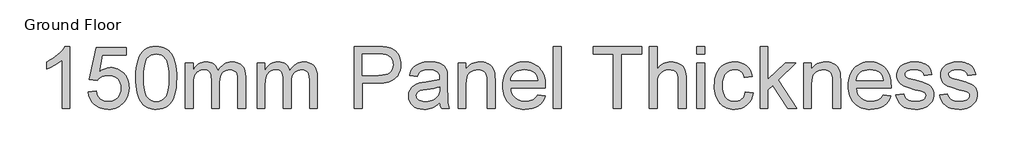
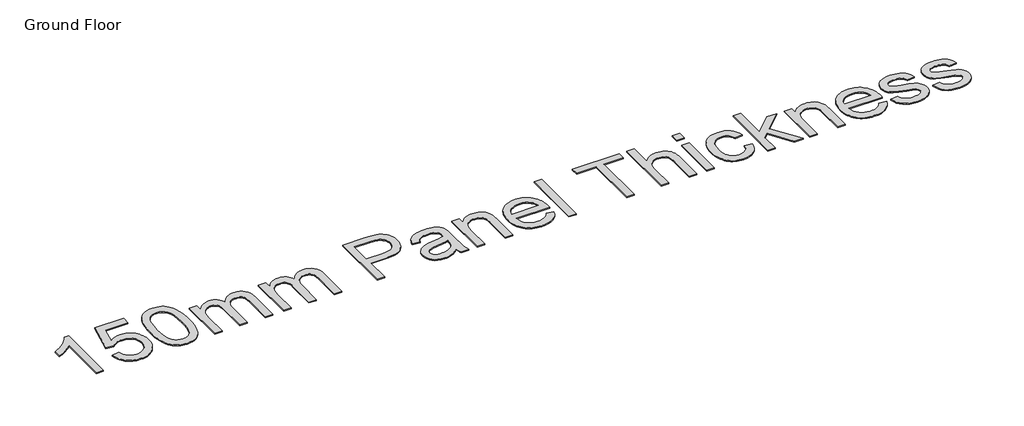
# One storey, part 10 of 11: 1 proxy.
"""IFC4 building model written with IfcOpenShell, lengths in millimetres."""

from ifc_helpers import new_model, si_unit, origin, origin_with_axes, place, context, project, spatial, polyline, outline, extrude, element, save

model = new_model("IFC4")

# Units and contexts
model_context = context("Model", 3, world=origin())
ifc_project = project(units=[si_unit("LENGTHUNIT", "METRE", prefix="MILLI")], contexts=[model_context])

# Site, building, storey
site = spatial("IfcSite", under=ifc_project)
building = spatial("IfcBuilding", under=site)
storey = spatial("IfcBuildingStorey", under=building, Name="Ground Floor", Elevation=0.0)

# Proxy
placement = place(None, origin())
element("IfcBuildingElementProxy", 1, Name="1200mm Arial", ObjectType="1200mm Arial", at=placement, inside=storey, context=model_context, shape_type="SweptSolid", body=[
    extrude(outline(polyline([(102494.0853893, 20341.9259002), (102347.1762984, 20341.9259002), (102347.1762984, 21257.8122638), (102285.8446223, 21208.2089258), (102208.0143666, 21158.6773206), (102126.3105314, 21115.3864826), (102053.3581166, 21084.5054456), (102053.3581166, 21223.3804456), (102112.9771684, 21253.2751544), (102168.740574, 21286.1467809), (102220.6483332, 21321.9953249), (102268.7004461, 21360.8207865), (102311.4622537, 21400.8298419), (102347.4990967, 21440.2291672), (102376.8109752, 21479.0187624), (102399.3978893, 21517.1986275), (102494.0853893, 21517.1986275), (102494.0853893, 20341.9259002)])), origin_with_axes(), (0.0, 0.0, 1.0), 20.0),
    extrude(outline(polyline([(102842.9944802, 20654.1077184), (102989.9035711, 20672.4713547), (103000.8787132, 20625.2441708), (103016.875162, 20584.2756871), (103037.8929177, 20549.5659037), (103063.9319802, 20521.1148206), (103094.9385498, 20498.9583043), (103130.8588268, 20483.1322212), (103171.6928112, 20473.6365714), (103217.4405029, 20470.4713547), (103273.3922075, 20474.8739648), (103322.7444802, 20488.0817951), (103365.4973211, 20510.0948455), (103401.6507302, 20540.9131161), (103430.3977118, 20579.0122816), (103450.93127, 20622.8680167), (103463.2514049, 20672.4803214), (103467.3581166, 20727.8491956), (103463.5114369, 20780.178386), (103451.9713978, 20826.697207), (103432.7379994, 20867.4056587), (103405.8112416, 20902.3037411), (103371.1014582, 20930.2975266), (103328.5189831, 20950.2930877), (103278.0638162, 20962.2904243), (103219.7359575, 20966.2895365), (103182.4079213, 20964.6934783), (103148.4692672, 20959.9053036), (103117.9199951, 20951.9250124), (103090.7601052, 20940.7526047), (103044.6716819, 20911.4138263), (103008.2672075, 20874.4713547), (102861.3581166, 20892.8349911), (102989.9035711, 21498.8349911), (103559.1762984, 21498.8349911), (103559.1762984, 21351.9259002), (103108.6933439, 21351.9259002), (103045.8552757, 21028.2668093), (103097.7002686, 21065.4244797), (103150.8005882, 21091.9656729), (103205.1562345, 21107.8903888), (103260.7672075, 21113.1986275), (103297.2680731, 21111.5532528), (103332.311863, 21106.6171289), (103365.8985773, 21098.3902557), (103398.028216, 21086.8726331), (103428.700779, 21072.0642613), (103457.9162664, 21053.9651402), (103485.6746782, 21032.5752699), (103511.9760143, 21007.8946502), (103535.9505127, 20980.6271608), (103556.7284113, 20951.4766814), (103574.3097102, 20920.443212), (103588.6944092, 20887.5267525), (103599.8825085, 20852.7273029), (103607.8740079, 20816.0448633), (103612.6689076, 20777.4794336), (103614.2672075, 20737.0310138), (103608.5106379, 20660.922349), (103591.2409291, 20590.1219229), (103562.4580811, 20524.6297354), (103522.1620939, 20464.4457865), (103492.9129816, 20431.4262109), (103461.1173495, 20402.8092454), (103426.7751976, 20378.5948899), (103389.8865257, 20358.7831445), (103350.4513339, 20343.3740092), (103308.4696223, 20332.367484), (103263.9413907, 20325.7635689), (103216.8666393, 20323.5622638), (103141.053873, 20329.2202006), (103105.8980003, 20336.2926216), (103072.5758012, 20346.194011), (103041.0872759, 20358.9243688), (103011.4324241, 20374.4836949), (102983.611246, 20392.8719895), (102957.6237416, 20414.0892525), (102933.8958252, 20437.6423198), (102912.8534113, 20463.0380273), (102894.4964999, 20490.2763752), (102878.825091, 20519.3573633), (102855.5387806, 20583.0472603), (102842.9944802, 20654.1077184)])), origin_with_axes(), (0.0, 0.0, 1.0), 20.0),
    extrude(outline(polyline([(103742.812662, 20920.0935138), (103745.5116145, 21018.9146253), (103753.6084717, 21108.2131871), (103767.1032338, 21187.9891992), (103785.9959007, 21258.2426615), (103810.2057728, 21319.5474378), (103839.6521507, 21372.4773917), (103874.3350342, 21417.0325231), (103914.2544234, 21453.212832), (103959.5448176, 21481.2066175), (104010.340716, 21501.2021786), (104066.6421187, 21513.1995152), (104128.4490257, 21517.1986275), (104174.8961137, 21514.83144), (104218.9760143, 21507.7298775), (104260.6887274, 21495.89394), (104300.0342529, 21479.3236275), (104336.0621294, 21458.2969052), (104367.821895, 21433.0917383), (104395.3135498, 21403.7081267), (104418.5370939, 21370.1460706), (104438.6581876, 21332.5400692), (104456.8424916, 21291.0246218), (104487.4007302, 21196.2653888), (104499.0752686, 21140.5378498), (104507.4142245, 21075.9333576), (104512.4175981, 21002.4519123), (104514.0853893, 20920.0935138), (104511.4133368, 20821.9000657), (104503.3971791, 20733.0498348), (104490.0369163, 20653.5428214), (104471.3325484, 20583.3790252), (104447.3109752, 20522.047349), (104417.9990967, 20469.0366956), (104383.3969127, 20424.347065), (104343.5044234, 20387.978457), (104298.1602295, 20359.7963725), (104247.2029319, 20339.6663121), (104190.6325306, 20327.5882759), (104128.4490257, 20323.5622638), (104086.843912, 20325.3107546), (104047.5342529, 20330.5562269), (104010.5200484, 20339.2986807), (103975.8012984, 20351.5381161), (103943.3780029, 20367.274533), (103913.250162, 20386.5079314), (103885.4177757, 20409.2383114), (103859.8808439, 20435.4656729), (103832.4429887, 20476.9945703), (103808.6635143, 20523.9662056), (103788.5424206, 20576.3805788), (103772.0797075, 20634.23769), (103759.2753751, 20697.537539), (103750.1294234, 20766.280126), (103744.6418524, 20840.465451), (103742.812662, 20920.0935138)]), holes=[polyline([(103889.7217529, 20920.3804456), (103894.0257302, 20792.6688867), (103906.937662, 20689.2927326), (103916.6216109, 20646.7304323), (103928.4575484, 20610.2519833), (103942.4454745, 20579.8573854), (103958.5853893, 20555.5466388), (103995.0257302, 20518.326202), (104035.4831166, 20491.7401758), (104079.9575484, 20475.78856), (104128.4490257, 20470.4713547), (104176.9405029, 20475.8064932), (104221.4149348, 20491.8119087), (104261.8723211, 20518.4876012), (104298.312662, 20555.8335706), (104314.4525768, 20580.2026003), (104328.4405029, 20610.6285813), (104340.2764404, 20647.1115136), (104349.9603893, 20689.6513973), (104362.8723211, 20792.9020188), (104367.1762984, 20920.3804456), (104363.015787, 21044.7115891), (104350.5342529, 21146.2675195), (104341.1731024, 21188.5047798), (104329.7316961, 21225.0482368), (104316.2100342, 21255.8978906), (104300.6081166, 21281.0537411), (104264.7775058, 21320.0944016), (104223.8538552, 21347.9805877), (104177.8371649, 21364.7122993), (104126.7274348, 21370.2895365), (104078.4870228, 21365.3758292), (104034.765787, 21350.634707), (103995.5637274, 21326.0661701), (103960.8808439, 21291.6702184), (103944.2029319, 21263.837832), (103929.7487416, 21230.697207), (103917.5182728, 21192.2483434), (103907.5115257, 21148.4912411), (103894.1691961, 21045.0523206), (103889.7217529, 20920.3804456)])]), origin_with_axes(), (0.0, 0.0, 1.0), 20.0),
    extrude(outline(polyline([(104679.3581166, 20341.9259002), (104679.3581166, 21205.0168093), (104826.2672075, 21205.0168093), (104826.2672075, 21062.9855593), (104846.7828325, 21097.3725444), (104870.4547075, 21128.2266814), (104897.2828325, 21155.5479705), (104927.2672075, 21179.3364115), (104959.9236351, 21198.6056765), (104994.7679177, 21212.3694371), (105031.8000555, 21220.6276935), (105071.0200484, 21223.3804456), (105113.898422, 21220.5738938), (105152.7238836, 21212.1542383), (105187.4964333, 21198.121479), (105218.2160711, 21178.4756161), (105244.7931308, 21153.7725799), (105267.1379461, 21124.5683008), (105285.2505172, 21090.8627787), (105299.1308439, 21052.6560138), (105324.9636741, 21092.6695525), (105352.6794944, 21127.3479527), (105382.2783048, 21156.6912145), (105413.7601052, 21180.6993377), (105447.1248957, 21199.3723224), (105482.3726762, 21212.7101687), (105519.5034468, 21220.7128764), (105558.5172075, 21223.3804456), (105617.3292636, 21218.9419691), (105668.950091, 21205.6265394), (105713.3796897, 21183.4341566), (105750.6180598, 21152.3648206), (105780.055471, 21112.0598668), (105801.0821933, 21062.1606303), (105813.6982267, 21002.6671111), (105817.9035711, 20933.5793093), (105817.9035711, 20341.9259002), (105670.9944802, 20341.9259002), (105670.9944802, 20870.4543093), (105667.5871649, 20943.7295223), (105657.3652189, 20993.1176615), (105649.1697288, 21010.9343341), (105638.21252, 21026.9397496), (105624.4935924, 21041.133908), (105608.0129461, 21053.5168093), (105589.3713446, 21063.5594229), (105569.1695512, 21070.7327184), (105524.0853893, 21076.4713547), (105482.4533758, 21072.7950408), (105444.4976762, 21061.766099), (105410.2182906, 21043.3845294), (105379.6152189, 21017.650332), (105354.4459184, 20983.8103107), (105336.4678467, 20941.1112695), (105325.6810037, 20889.5532084), (105322.0853893, 20829.1361275), (105322.0853893, 20341.9259002), (105175.1762984, 20341.9259002), (105175.1762984, 20886.8094229), (105173.0512096, 20931.3197212), (105166.6759433, 20969.8761843), (105156.0504994, 21002.4788121), (105141.1748779, 21029.1276047), (105121.4572821, 21049.8404954), (105096.3059149, 21064.6354172), (105065.7207764, 21073.5123704), (105029.7018666, 21076.4713547), (105000.8472856, 21074.4986985), (104973.1045654, 21068.5807297), (104946.4737061, 21058.7174485), (104920.9547075, 21044.9088547), (104897.7132302, 21027.2984144), (104877.9149348, 21006.0295934), (104861.5598211, 20981.1023917), (104848.6478893, 20952.5168093), (104838.856341, 20918.7485209), (104831.8623779, 20878.2732013), (104826.2672075, 20777.2014684), (104826.2672075, 20341.9259002), (104679.3581166, 20341.9259002)])), origin_with_axes(), (0.0, 0.0, 1.0), 20.0),
    extrude(outline(polyline([(106038.2672075, 20341.9259002), (106038.2672075, 21205.0168093), (106185.1762984, 21205.0168093), (106185.1762984, 21062.9855593), (106205.6919234, 21097.3725444), (106229.3637984, 21128.2266814), (106256.1919234, 21155.5479705), (106286.1762984, 21179.3364115), (106318.832726, 21198.6056765), (106353.6770086, 21212.3694371), (106390.7091464, 21220.6276935), (106429.9291393, 21223.3804456), (106472.8075129, 21220.5738938), (106511.6329745, 21212.1542383), (106546.4055243, 21198.121479), (106577.125162, 21178.4756161), (106603.7022217, 21153.7725799), (106626.047037, 21124.5683008), (106644.1596081, 21090.8627787), (106658.0399348, 21052.6560138), (106683.872765, 21092.6695525), (106711.5885853, 21127.3479527), (106741.1873957, 21156.6912145), (106772.6691961, 21180.6993377), (106806.0339866, 21199.3723224), (106841.2817672, 21212.7101687), (106878.4125377, 21220.7128764), (106917.4262984, 21223.3804456), (106976.2383545, 21218.9419691), (107027.8591819, 21205.6265394), (107072.2887806, 21183.4341566), (107109.5271507, 21152.3648206), (107138.9645619, 21112.0598668), (107159.9912842, 21062.1606303), (107172.6073176, 21002.6671111), (107176.812662, 20933.5793093), (107176.812662, 20341.9259002), (107029.9035711, 20341.9259002), (107029.9035711, 20870.4543093), (107026.4962558, 20943.7295223), (107016.2743098, 20993.1176615), (107008.0788197, 21010.9343341), (106997.1216109, 21026.9397496), (106983.4026833, 21041.133908), (106966.922037, 21053.5168093), (106948.2804355, 21063.5594229), (106928.0786422, 21070.7327184), (106882.9944802, 21076.4713547), (106841.3624667, 21072.7950408), (106803.4067672, 21061.766099), (106769.1273815, 21043.3845294), (106738.5243098, 21017.650332), (106713.3550093, 20983.8103107), (106695.3769376, 20941.1112695), (106684.5900946, 20889.5532084), (106680.9944802, 20829.1361275), (106680.9944802, 20341.9259002), (106534.0853893, 20341.9259002), (106534.0853893, 20886.8094229), (106531.9603005, 20931.3197212), (106525.5850342, 20969.8761843), (106514.9595903, 21002.4788121), (106500.0839689, 21029.1276047), (106480.366373, 21049.8404954), (106455.2150058, 21064.6354172), (106424.6298673, 21073.5123704), (106388.6109575, 21076.4713547), (106359.7563765, 21074.4986985), (106332.0136564, 21068.5807297), (106305.382797, 21058.7174485), (106279.8637984, 21044.9088547), (106256.6223211, 21027.2984144), (106236.8240257, 21006.0295934), (106220.468912, 20981.1023917), (106207.5569802, 20952.5168093), (106197.7654319, 20918.7485209), (106190.7714689, 20878.2732013), (106185.1762984, 20777.2014684), (106185.1762984, 20341.9259002), (106038.2672075, 20341.9259002)])), origin_with_axes(), (0.0, 0.0, 1.0), 20.0),
    extrude(outline(polyline([(107874.6308439, 20341.9259002), (107874.6308439, 21517.1986275), (108310.1933439, 21517.1986275), (108411.6237416, 21514.4010422), (108485.7956166, 21506.0082865), (108526.6744341, 21497.1940998), (108564.0921365, 21485.0981303), (108598.0487238, 21469.7203782), (108628.5441961, 21451.0608434), (108655.9013517, 21428.7339613), (108680.4429887, 21402.3541672), (108702.1691074, 21371.9214613), (108721.0797075, 21337.4358434), (108736.3946933, 21300.0360742), (108747.3339689, 21260.8609144), (108753.8975342, 21219.910364), (108756.0853893, 21177.1844229), (108750.1763872, 21105.0390039), (108742.7901345, 21071.1317329), (108732.4493808, 21038.6680877), (108719.154126, 21007.6480682), (108702.9043701, 20978.0716743), (108683.7001132, 20949.9389062), (108661.5413552, 20923.2497638), (108635.5269509, 20898.9053924), (108604.7557551, 20877.8069371), (108569.2277677, 20859.9543981), (108528.9429887, 20845.3477752), (108483.9014183, 20833.9870685), (108434.1030562, 20825.872278), (108379.5479026, 20821.0034037), (108320.2359575, 20819.3804456), (108021.5399348, 20819.3804456), (108021.5399348, 20341.9259002), (107874.6308439, 20341.9259002)]), holes=[polyline([(108021.5399348, 20966.2895365), (108328.843912, 20966.2895365), (108399.5008723, 20969.6609854), (108459.1109575, 20979.775332), (108507.6741677, 20996.6325763), (108545.1905029, 21020.2327184), (108573.1842885, 21049.9480948), (108593.1798495, 21085.1510422), (108605.1771862, 21125.8415607), (108609.1762984, 21172.0196502), (108606.8180775, 21206.3080025), (108599.7434149, 21238.0139684), (108587.9523105, 21267.1375479), (108571.4447643, 21293.6787411), (108551.0995051, 21316.7767525), (108527.7952615, 21335.5707865), (108501.5320335, 21350.0608434), (108472.3098211, 21360.2469229), (108415.640787, 21367.7788831), (108325.4007302, 21370.2895365), (108021.5399348, 21370.2895365), (108021.5399348, 20966.2895365)])]), origin_with_axes(), (0.0, 0.0, 1.0), 20.0),
    extrude(outline(polyline([(109490.6308439, 20452.1077184), (109455.7955278, 20419.4154243), (109420.4401478, 20391.9237695), (109384.5647039, 20369.6327539), (109348.1691961, 20352.5423775), (109310.8411599, 20339.8635777), (109272.1681308, 20330.8072922), (109232.1501088, 20325.3735209), (109190.7870939, 20323.5622638), (109125.3756059, 20327.9200408), (109068.0161422, 20340.9933718), (109018.7087025, 20362.7822567), (108977.453287, 20393.2866956), (108944.8775591, 20430.5698988), (108921.6091819, 20472.6950763), (108907.6481556, 20519.6622283), (108902.9944802, 20571.4713547), (108904.7519376, 20602.6213902), (108910.0243098, 20632.3726331), (108918.8115967, 20660.7250834), (108931.1137984, 20687.6787411), (108946.2763517, 20712.6418093), (108963.6446933, 20735.0224911), (108983.2188233, 20754.8207865), (109004.9987416, 20772.0366956), (109053.5978183, 20800.0125479), (109107.8637984, 20820.2412411), (109160.7309859, 20831.503315), (109234.9745939, 20842.3349911), (109385.1834007, 20865.5764684), (109443.1794944, 20878.703599), (109489.7700484, 20892.8349911), (109490.6308439, 20925.5452184), (109488.1022572, 20961.1606303), (109480.5164973, 20991.1091388), (109467.873564, 21015.3907439), (109450.1734575, 21034.0054456), (109419.5793524, 21052.5842809), (109382.3140825, 21065.8548775), (109338.3776478, 21073.8172354), (109287.7700484, 21076.4713547), (109240.7132302, 21074.7049307), (109200.2558439, 21069.4056587), (109166.3978893, 21060.5735387), (109139.1393666, 21048.2085706), (109116.7407515, 21031.3423597), (109097.46252, 21009.006511), (109081.304672, 20981.2010245), (109068.2672075, 20947.9259002), (108921.3581166, 20966.2895365), (108932.5394909, 21008.6119797), (108946.8591819, 21046.6304456), (108964.3171897, 21080.3449343), (108984.9135143, 21109.7554456), (109009.535851, 21135.4537766), (109039.071895, 21158.031724), (109073.5216464, 21177.489288), (109112.8851052, 21193.8264684), (109156.3642423, 21206.7563334), (109203.1610285, 21215.9919513), (109253.2754639, 21221.5333221), (109306.7075484, 21223.3804456), (109358.9381059, 21221.7485209), (109406.021824, 21216.8527468), (109447.9587025, 21208.6931232), (109484.7487416, 21197.2696502), (109516.6968062, 21183.3803569), (109544.1077615, 21167.8232723), (109566.9816074, 21150.5983966), (109585.3183439, 21131.7057297), (109600.1849987, 21110.6790074), (109612.6485995, 21087.0519655), (109630.3666393, 21031.9969229), (109635.7466109, 20981.2099911), (109637.5399348, 20903.4514684), (109637.5399348, 20720.6759002), (109639.4049916, 20561.4646076), (109645.000162, 20465.4500479), (109656.047037, 20402.3609144), (109674.2672075, 20341.9259002), (109527.3581166, 20341.9259002), (109514.3027189, 20366.4585706), (109503.8297075, 20392.9997638), (109490.6308439, 20452.1077184)]), holes=[polyline([(109490.6308439, 20745.9259002), (109446.228145, 20733.211234), (109391.9262984, 20721.4649627), (109253.625162, 20700.8776047), (109177.4088978, 20689.6155309), (109127.2316961, 20677.0622638), (109094.3421365, 20660.7788831), (109069.9887984, 20638.3264684), (109054.9248779, 20611.4266104), (109049.9035711, 20581.8009002), (109052.63839, 20558.9718874), (109060.8428467, 20538.1155309), (109074.5169412, 20519.2318306), (109093.6606734, 20502.3207865), (109118.094711, 20488.3866601), (109147.6397217, 20478.4337127), (109182.2957054, 20472.4619442), (109222.062662, 20470.4713547), (109262.6635143, 20472.6681765), (109300.968912, 20479.2586417), (109336.9788552, 20490.2427503), (109370.6933439, 20505.6205025), (109401.1081166, 20524.1186381), (109427.218912, 20544.4638973), (109449.0257302, 20566.6562802), (109466.5285711, 20590.6957865), (109476.6967174, 20612.2156729), (109483.9596791, 20638.3264684), (109488.3174561, 20669.0281729), (109489.7700484, 20704.3207865), (109490.6308439, 20745.9259002)])]), origin_with_axes(), (0.0, 0.0, 1.0), 20.0),
    extrude(outline(polyline([(109839.5399348, 20341.9259002), (109839.5399348, 21205.0168093), (109986.4490257, 21205.0168093), (109986.4490257, 21084.5054456), (110010.6857977, 21117.0542738), (110037.4870228, 21145.2632581), (110066.8527011, 21169.1323988), (110098.7828325, 21188.6616956), (110133.277417, 21203.8511488), (110170.3364547, 21214.7007581), (110209.9599454, 21221.2105238), (110252.1478893, 21223.3804456), (110289.1172608, 21221.6319549), (110324.5623069, 21216.3864826), (110358.4830278, 21207.6440287), (110390.8794234, 21195.4045934), (110420.5230669, 21180.3227397), (110446.1855314, 21163.0530309), (110467.8668169, 21143.5954669), (110485.5669234, 21121.9500479), (110512.287449, 21072.2032439), (110529.6109575, 21013.9202184), (110535.4213268, 20958.1837127), (110537.3581166, 20871.8889684), (110537.3581166, 20341.9259002), (110390.4490257, 20341.9259002), (110390.4490257, 20852.0906729), (110386.2167814, 20928.0558718), (110380.926476, 20957.8071147), (110373.5200484, 20982.0707865), (110363.4326017, 21002.505712), (110350.0992387, 21020.7707155), (110333.5199596, 21036.8657972), (110313.6947643, 21050.790957), (110291.3051159, 21062.026131), (110267.0324774, 21070.0512553), (110240.8768488, 21074.8663299), (110212.8382302, 21076.4713547), (110168.2292991, 21072.8667738), (110126.7945512, 21062.0530309), (110088.5339866, 21044.030126), (110053.4476052, 21018.7980593), (110037.7448131, 21002.7612606), (110024.1357267, 20983.4875124), (110012.6203458, 20960.9768146), (110003.1986706, 20935.2291672), (109990.6364369, 20874.0230238), (109986.4490257, 20799.869082), (109986.4490257, 20341.9259002), (109839.5399348, 20341.9259002)])), origin_with_axes(), (0.0, 0.0, 1.0), 20.0),
    extrude(outline(polyline([(111343.6365257, 20599.0168093), (111487.6762984, 20580.6531729), (111465.591515, 20522.9619442), (111435.7775058, 20472.1212127), (111398.2342707, 20428.1309783), (111352.9618098, 20390.9912411), (111300.4263872, 20361.4910635), (111241.0942672, 20340.4195081), (111174.9654497, 20327.7765749), (111102.0399348, 20323.5622638), (111055.220732, 20325.3802459), (111010.8852828, 20330.8341921), (110969.0335871, 20339.9241024), (110929.665645, 20352.6499769), (110892.7814564, 20369.0118155), (110858.3810214, 20389.0096182), (110826.46434, 20412.6433851), (110797.031412, 20439.9131161), (110770.6023016, 20470.4646298), (110747.6970726, 20503.9437446), (110728.3157249, 20540.3504607), (110712.4582586, 20579.684778), (110700.1246738, 20621.9466965), (110691.3149703, 20667.1362162), (110686.0291482, 20715.2533372), (110684.2672075, 20766.2980593), (110686.0470814, 20819.0800639), (110691.3867032, 20868.8223846), (110700.2860729, 20915.5250213), (110712.7451904, 20959.187974), (110728.7640559, 20999.8112429), (110748.3426691, 21037.3948277), (110771.4810303, 21071.9387287), (110798.1791393, 21103.4429456), (110827.7151833, 21131.5532972), (110859.3673495, 21155.9156019), (110893.1356379, 21176.5298597), (110929.0200484, 21193.3960706), (110967.0205811, 21206.5142347), (111007.1372359, 21215.8843519), (111049.3700129, 21221.5064222), (111093.718912, 21223.3804456), (111136.6174605, 21221.5109055), (111177.5119696, 21215.9022851), (111216.4024392, 21206.5545845), (111253.2888694, 21193.4678036), (111288.1712602, 21176.6419424), (111321.0496116, 21156.077001), (111351.9239236, 21131.7729794), (111380.7941961, 21103.7298775), (111406.9206832, 21072.2973934), (111429.5636386, 21037.8252255), (111448.7230624, 21000.3133736), (111464.3989547, 20959.7618377), (111476.5913153, 20916.1706179), (111485.3001443, 20869.5397141), (111490.5254417, 20819.8691264), (111492.2672075, 20767.1588547), (111491.406412, 20727.5622638), (110831.1762984, 20727.5622638), (110839.6856201, 20668.9385067), (110856.6056308, 20617.5956445), (110881.9363304, 20573.5336772), (110915.6777189, 20536.7526047), (110955.9647395, 20507.7545579), (111000.9323353, 20487.0416672), (111050.5805065, 20474.6139329), (111104.9092529, 20470.4713547), (111145.5459717, 20472.3902113), (111183.0981734, 20478.1467809), (111217.5658581, 20487.7410635), (111248.9490257, 20501.1730593), (111277.2476762, 20518.8014329), (111302.4618098, 20540.984849), (111324.5914262, 20567.7233079), (111343.6365257, 20599.0168093)]), holes=[polyline([(110831.1762984, 20874.4713547), (111345.3581166, 20874.4713547), (111337.8082231, 20916.0406019), (111325.4880882, 20952.0864115), (111308.3977118, 20982.6087837), (111286.5370939, 21007.6077184), (111246.4742387, 21037.7355593), (111200.8879461, 21059.2554456), (111149.778216, 21072.1673775), (111093.1450484, 21076.4713547), (111041.4883545, 21073.0371395), (110994.1177047, 21062.7344939), (110951.0330988, 21045.5634179), (110912.234537, 21021.5239115), (110879.6767423, 20991.7278356), (110855.3144376, 20957.2870508), (110839.147623, 20918.2015571), (110831.1762984, 20874.4713547)])]), origin_with_axes(), (0.0, 0.0, 1.0), 20.0),
    extrude(outline(polyline([(111639.1762984, 20341.9259002), (111639.1762984, 21517.1986275), (111786.0853893, 21517.1986275), (111786.0853893, 20341.9259002), (111639.1762984, 20341.9259002)])), origin_with_axes(), (0.0, 0.0, 1.0), 20.0),
    extrude(outline(polyline([(112777.7217529, 20341.9259002), (112777.7217529, 21370.2895365), (112392.0853893, 21370.2895365), (112392.0853893, 21517.1986275), (113310.2672075, 21517.1986275), (113310.2672075, 21370.2895365), (112924.6308439, 21370.2895365), (112924.6308439, 20341.9259002), (112777.7217529, 20341.9259002)])), origin_with_axes(), (0.0, 0.0, 1.0), 20.0),
    extrude(outline(polyline([(113457.1762984, 20341.9259002), (113457.1762984, 21517.1986275), (113604.0853893, 21517.1986275), (113604.0853893, 21085.0793093), (113630.2365346, 21117.4936381), (113658.0465044, 21145.5860564), (113687.5152988, 21169.3565642), (113718.6429177, 21188.8051615), (113751.4293613, 21203.9318483), (113785.8746294, 21214.7366246), (113821.9787221, 21221.2194904), (113859.7416393, 21223.3804456), (113905.6686635, 21221.0222248), (113948.4753041, 21213.9475621), (113988.1615612, 21202.1564577), (114024.7274348, 21185.6489115), (114057.2403964, 21164.980854), (114084.7679177, 21140.7082155), (114107.3099987, 21112.8309961), (114124.8666393, 21081.3491956), (114138.0475697, 21044.3170579), (114147.46252, 20999.7888263), (114153.1114902, 20947.764501), (114154.9944802, 20888.244082), (114154.9944802, 20341.9259002), (114008.0853893, 20341.9259002), (114008.0853893, 20873.0366956), (114005.1622714, 20922.6400337), (113996.3929177, 20964.9983434), (113981.7773282, 21000.1116246), (113961.3155029, 21027.9798775), (113935.4916393, 21049.1948988), (113904.7899348, 21064.3484854), (113869.2103893, 21073.4406374), (113828.7530029, 21076.4713547), (113797.235336, 21074.4269655), (113766.6681308, 21068.2937979), (113737.0513872, 21058.0718519), (113708.3851052, 21043.7611275), (113682.2205101, 21025.9534215), (113660.1088268, 21005.2405309), (113642.0500555, 20981.6224556), (113628.0441961, 20955.0991956), (113617.5622181, 20924.4512908), (113610.075091, 20888.4592809), (113605.5828147, 20847.1231658), (113604.0853893, 20800.4429456), (113604.0853893, 20341.9259002), (113457.1762984, 20341.9259002)])), origin_with_axes(), (0.0, 0.0, 1.0), 20.0),
    extrude(outline(polyline([(114356.9944802, 21370.2895365), (114356.9944802, 21517.1986275), (114503.9035711, 21517.1986275), (114503.9035711, 21370.2895365), (114356.9944802, 21370.2895365)])), origin_with_axes(), (0.0, 0.0, 1.0), 20.0),
    extrude(outline(polyline([(114356.9944802, 20341.9259002), (114356.9944802, 21205.0168093), (114503.9035711, 21205.0168093), (114503.9035711, 20341.9259002), (114356.9944802, 20341.9259002)])), origin_with_axes(), (0.0, 0.0, 1.0), 20.0),
    extrude(outline(polyline([(115275.1762984, 20654.1077184), (115422.0853893, 20635.744082), (115406.1068737, 20566.4231481), (115381.1258723, 20505.0825053), (115347.1423851, 20451.7221537), (115304.156412, 20406.3420934), (115253.9792103, 20370.1259179), (115198.422037, 20344.2572212), (115137.4848922, 20328.7360032), (115071.1677757, 20323.5622638), (115028.9058572, 20325.366796), (114988.7735108, 20330.7803924), (114950.7707364, 20339.8030531), (114914.8975342, 20352.434778), (114881.153904, 20368.6755673), (114849.539846, 20388.5254208), (114820.05536, 20411.9843386), (114792.7004461, 20439.0523206), (114768.0534513, 20469.4917516), (114746.6927224, 20503.065016), (114728.6182595, 20539.7721138), (114713.8300626, 20579.6130451), (114702.3281317, 20622.5878098), (114694.1124667, 20668.696408), (114689.1830678, 20717.9388396), (114687.5399348, 20770.3151047), (114690.3464866, 20837.8606481), (114698.7661422, 20901.0484144), (114712.7989014, 20959.8784037), (114732.4447643, 21014.3506161), (114757.8382302, 21063.3711239), (114789.1137984, 21105.8459996), (114826.2714689, 21141.7752432), (114869.3112416, 21171.1588547), (114916.2873602, 21194.0058008), (114965.2540683, 21210.3250479), (115016.2113659, 21220.1165962), (115069.1592529, 21223.3804456), (115134.3376088, 21218.897136), (115193.2931308, 21205.447207), (115246.025819, 21183.0306587), (115292.5356734, 21151.6474911), (115332.0336315, 21112.0150337), (115363.7306308, 21064.8506161), (115387.6266713, 21010.1542383), (115403.7217529, 20947.9259002), (115256.812662, 20929.5622638), (115245.3443559, 20963.877516), (115230.1638694, 20993.6556587), (115211.2712025, 21018.8966921), (115188.6663552, 21039.6006161), (115162.9231912, 21055.7315642), (115134.615574, 21067.2536701), (115103.7435037, 21074.1669336), (115070.3069802, 21076.4713547), (115020.3898105, 21071.9342454), (114975.3684149, 21058.3229172), (114935.2427934, 21035.6373704), (114900.0129461, 21003.8776047), (114884.6464023, 20984.4110742), (114871.3287309, 20962.3083576), (114850.8400058, 20910.1943661), (114838.5467707, 20847.5356303), (114834.4490257, 20774.3321502), (114838.4571045, 20700.0257759), (114850.481341, 20636.6407439), (114870.5217352, 20584.1770543), (114883.5479914, 20562.0407129), (114898.578287, 20542.634707), (114933.108738, 20511.0632404), (114972.5708297, 20488.5121928), (115016.9645619, 20474.9815642), (115066.2899348, 20470.4713547), (115106.0389582, 20473.2868732), (115142.3627331, 20481.7334286), (115175.2612593, 20495.8110209), (115204.734537, 20515.5196502), (115229.9576372, 20541.0745152), (115250.1056308, 20572.690815), (115265.1785179, 20610.3685493), (115275.1762984, 20654.1077184)])), origin_with_axes(), (0.0, 0.0, 1.0), 20.0),
    extrude(outline(polyline([(115550.6308439, 20341.9259002), (115550.6308439, 21517.1986275), (115697.5399348, 21517.1986275), (115697.5399348, 20885.6616956), (116026.937662, 21205.0168093), (116230.0853893, 21205.0168093), (115896.6706166, 20881.6446502), (116248.4490257, 20341.9259002), (116076.8637984, 20341.9259002), (115791.3666393, 20779.4969229), (115697.5399348, 20688.5395365), (115697.5399348, 20341.9259002), (115550.6308439, 20341.9259002)])), origin_with_axes(), (0.0, 0.0, 1.0), 20.0),
    extrude(outline(polyline([(116376.9944802, 20341.9259002), (116376.9944802, 21205.0168093), (116523.9035711, 21205.0168093), (116523.9035711, 21084.5054456), (116548.1403431, 21117.0542738), (116574.9415683, 21145.2632581), (116604.3072466, 21169.1323988), (116636.2373779, 21188.6616956), (116670.7319625, 21203.8511488), (116707.7910001, 21214.7007581), (116747.4144909, 21221.2105238), (116789.6024348, 21223.3804456), (116826.5718062, 21221.6319549), (116862.0168524, 21216.3864826), (116895.9375733, 21207.6440287), (116928.3339689, 21195.4045934), (116957.9776123, 21180.3227397), (116983.6400768, 21163.0530309), (117005.3213623, 21143.5954669), (117023.0214689, 21121.9500479), (117049.7419944, 21072.2032439), (117067.0655029, 21013.9202184), (117072.8758723, 20958.1837127), (117074.812662, 20871.8889684), (117074.812662, 20341.9259002), (116927.9035711, 20341.9259002), (116927.9035711, 20852.0906729), (116923.6713268, 20928.0558718), (116918.3810214, 20957.8071147), (116910.9745939, 20982.0707865), (116900.8871471, 21002.505712), (116887.5537842, 21020.7707155), (116870.9745051, 21036.8657972), (116851.1493098, 21050.790957), (116828.7596613, 21062.026131), (116804.4870228, 21070.0512553), (116778.3313943, 21074.8663299), (116750.2927757, 21076.4713547), (116705.6838446, 21072.8667738), (116664.2490967, 21062.0530309), (116625.9885321, 21044.030126), (116590.9021507, 21018.7980593), (116575.1993586, 21002.7612606), (116561.5902721, 20983.4875124), (116550.0748913, 20960.9768146), (116540.653216, 20935.2291672), (116528.0909824, 20874.0230238), (116523.9035711, 20799.869082), (116523.9035711, 20341.9259002), (116376.9944802, 20341.9259002)])), origin_with_axes(), (0.0, 0.0, 1.0), 20.0),
    extrude(outline(polyline([(117881.0910711, 20599.0168093), (118025.1308439, 20580.6531729), (118003.0460605, 20522.9619442), (117973.2320512, 20472.1212127), (117935.6888162, 20428.1309783), (117890.4163552, 20390.9912411), (117837.8809326, 20361.4910635), (117778.5488126, 20340.4195081), (117712.4199951, 20327.7765749), (117639.4944802, 20323.5622638), (117592.6752775, 20325.3802459), (117548.3398282, 20330.8341921), (117506.4881326, 20339.9241024), (117467.1201904, 20352.6499769), (117430.2360019, 20369.0118155), (117395.8355669, 20389.0096182), (117363.9188854, 20412.6433851), (117334.4859575, 20439.9131161), (117308.0568471, 20470.4646298), (117285.151618, 20503.9437446), (117265.7702703, 20540.3504607), (117249.9128041, 20579.684778), (117237.5792192, 20621.9466965), (117228.7695157, 20667.1362162), (117223.4836936, 20715.2533372), (117221.7217529, 20766.2980593), (117223.5016269, 20819.0800639), (117228.8412487, 20868.8223846), (117237.7406184, 20915.5250213), (117250.1997359, 20959.187974), (117266.2186013, 20999.8112429), (117285.7972146, 21037.3948277), (117308.9355757, 21071.9387287), (117335.6336848, 21103.4429456), (117365.1697288, 21131.5532972), (117396.821895, 21155.9156019), (117430.5901833, 21176.5298597), (117466.4745939, 21193.3960706), (117504.4751265, 21206.5142347), (117544.5917814, 21215.8843519), (117586.8245583, 21221.5064222), (117631.1734575, 21223.3804456), (117674.072006, 21221.5109055), (117714.966515, 21215.9022851), (117753.8569847, 21206.5545845), (117790.7434149, 21193.4678036), (117825.6258057, 21176.6419424), (117858.5041571, 21156.077001), (117889.378469, 21131.7729794), (117918.2487416, 21103.7298775), (117944.3752286, 21072.2973934), (117967.0181841, 21037.8252255), (117986.1776079, 21000.3133736), (118001.8535001, 20959.7618377), (118014.0458607, 20916.1706179), (118022.7546897, 20869.5397141), (118027.9799871, 20819.8691264), (118029.7217529, 20767.1588547), (118028.8609575, 20727.5622638), (117368.6308439, 20727.5622638), (117377.1401656, 20668.9385067), (117394.0601762, 20617.5956445), (117419.3908758, 20573.5336772), (117453.1322643, 20536.7526047), (117493.4192849, 20507.7545579), (117538.3868808, 20487.0416672), (117588.035052, 20474.6139329), (117642.3637984, 20470.4713547), (117683.0005172, 20472.3902113), (117720.5527189, 20478.1467809), (117755.0204035, 20487.7410635), (117786.4035711, 20501.1730593), (117814.7022217, 20518.8014329), (117839.9163552, 20540.984849), (117862.0459717, 20567.7233079), (117881.0910711, 20599.0168093)]), holes=[polyline([(117368.6308439, 20874.4713547), (117882.812662, 20874.4713547), (117875.2627686, 20916.0406019), (117862.9426336, 20952.0864115), (117845.8522572, 20982.6087837), (117823.9916393, 21007.6077184), (117783.9287842, 21037.7355593), (117738.3424916, 21059.2554456), (117687.2327615, 21072.1673775), (117630.5995939, 21076.4713547), (117578.9429, 21073.0371395), (117531.5722501, 21062.7344939), (117488.4876443, 21045.5634179), (117449.6890825, 21021.5239115), (117417.1312877, 20991.7278356), (117392.7689831, 20957.2870508), (117376.6021684, 20918.2015571), (117368.6308439, 20874.4713547)])]), origin_with_axes(), (0.0, 0.0, 1.0), 20.0),
    extrude(outline(polyline([(118121.5399348, 20599.0168093), (118268.4490257, 20617.3804456), (118277.3259788, 20583.8811559), (118291.61877, 20554.5423775), (118311.3273993, 20529.3641104), (118336.4518666, 20508.3463547), (118367.0639049, 20491.7760422), (118403.2352473, 20479.9401047), (118444.9658936, 20472.8385422), (118492.2558439, 20470.4713547), (118539.4919944, 20472.6412766), (118580.2004461, 20479.1510422), (118614.381199, 20490.0006516), (118642.0342529, 20505.1901047), (118663.3748069, 20523.3026758), (118678.6180598, 20542.9216388), (118687.7640115, 20564.0469939), (118690.812662, 20586.6787411), (118687.7460782, 20606.512903), (118678.5463268, 20624.1233434), (118663.2134078, 20639.5100621), (118641.7473211, 20652.6730593), (118586.728145, 20671.3236275), (118490.5342529, 20694.5651047), (118356.4653609, 20733.3367667), (118269.3098211, 20766.4415252), (118239.3882125, 20783.0387375), (118213.3222501, 20802.5590678), (118191.1119341, 20825.002516), (118172.7572643, 20850.369082), (118158.3837735, 20877.8966033), (118148.1169944, 20906.8229172), (118141.956927, 20937.1480238), (118139.9035711, 20968.8719229), (118141.5534291, 20997.8789364), (118146.5030029, 21025.7920223), (118154.7522927, 21052.6111807), (118166.3012984, 21078.3364115), (118180.701689, 21102.4476509), (118197.5051336, 21124.4248348), (118216.7116322, 21144.2679634), (118238.3211848, 21161.9770365), (118278.8861706, 21185.6130451), (118331.7174916, 21205.447207), (118392.7981024, 21218.897136), (118458.1109575, 21223.3804456), (118507.4811635, 21221.5781552), (118553.7309859, 21216.1712837), (118596.8604248, 21207.1598313), (118636.8694802, 21194.5437979), (118672.8076904, 21178.8522141), (118703.7245939, 21160.6141104), (118729.6201904, 21139.8294868), (118750.4944802, 21116.4983434), (118767.4234575, 21089.8047177), (118781.4831166, 21058.9326473), (118792.6734575, 21023.8821324), (118800.9944802, 20984.6531729), (118654.0853893, 20966.2895365), (118647.0824596, 20990.8311736), (118635.5424206, 21012.5214258), (118619.4652721, 21031.3602929), (118598.8510143, 21047.3477752), (118573.6099809, 21060.0893412), (118543.6525058, 21069.1904598), (118508.9785889, 21074.651131), (118469.5882302, 21076.4713547), (118423.8943382, 21074.7318306), (118385.2302757, 21069.5132581), (118353.5960427, 21060.8156374), (118328.9916393, 21048.6389684), (118310.5383368, 21034.1489115), (118297.3574064, 21018.5111275), (118289.4488481, 21001.7256161), (118286.812662, 20983.7923775), (118291.1883723, 20961.1964968), (118304.3155029, 20941.0395365), (118326.7679177, 20923.034565), (118359.1194802, 20908.6162411), (118485.656412, 20877.3406729), (118615.4571933, 20838.9635422), (118701.2856734, 20808.1901047), (118731.4852473, 20793.179984), (118758.2416393, 20775.1212127), (118781.5548495, 20754.0137908), (118801.4248779, 20729.8577184), (118817.3047608, 20702.6171289), (118828.6475342, 20672.2561559), (118835.4531983, 20638.7747993), (118837.7217529, 20602.1730593), (118835.058667, 20565.4099201), (118827.0694092, 20529.7227752), (118813.7539795, 20495.1116246), (118795.1123779, 20461.5764684), (118771.4494696, 20430.4533327), (118743.0701194, 20403.0782439), (118709.9743275, 20379.451202), (118672.1620939, 20359.572207), (118630.6645797, 20343.8178569), (118586.5129461, 20332.5647496), (118539.7071933, 20325.8128853), (118490.2473211, 20323.5622638), (118411.179672, 20327.9021076), (118342.11877, 20340.9216388), (118283.0646152, 20362.6208576), (118234.0172075, 20392.9997638), (118193.9543524, 20431.9148917), (118161.8538552, 20479.2227752), (118137.715716, 20534.9234144), (118121.5399348, 20599.0168093)])), origin_with_axes(), (0.0, 0.0, 1.0), 20.0),
    extrude(outline(polyline([(118947.9035711, 20599.0168093), (119094.812662, 20617.3804456), (119103.6896152, 20583.8811559), (119117.9824064, 20554.5423775), (119137.6910356, 20529.3641104), (119162.8155029, 20508.3463547), (119193.4275413, 20491.7760422), (119229.5988836, 20479.9401047), (119271.3295299, 20472.8385422), (119318.6194802, 20470.4713547), (119365.8556308, 20472.6412766), (119406.5640825, 20479.1510422), (119440.7448353, 20490.0006516), (119468.3978893, 20505.1901047), (119489.7384433, 20523.3026758), (119504.9816961, 20542.9216388), (119514.1276478, 20564.0469939), (119517.1762984, 20586.6787411), (119514.1097146, 20606.512903), (119504.9099632, 20624.1233434), (119489.5770441, 20639.5100621), (119468.1109575, 20652.6730593), (119413.0917814, 20671.3236275), (119316.8978893, 20694.5651047), (119182.8289973, 20733.3367667), (119095.6734575, 20766.4415252), (119065.7518488, 20783.0387375), (119039.6858865, 20802.5590678), (119017.4755704, 20825.002516), (118999.1209007, 20850.369082), (118984.7474099, 20877.8966033), (118974.4806308, 20906.8229172), (118968.3205633, 20937.1480238), (118966.2672075, 20968.8719229), (118967.9170654, 20997.8789364), (118972.8666393, 21025.7920223), (118981.1159291, 21052.6111807), (118992.6649348, 21078.3364115), (119007.0653254, 21102.4476509), (119023.86877, 21124.4248348), (119043.0752686, 21144.2679634), (119064.6848211, 21161.9770365), (119105.2498069, 21185.6130451), (119158.0811279, 21205.447207), (119219.1617387, 21218.897136), (119284.4745939, 21223.3804456), (119333.8447998, 21221.5781552), (119380.0946223, 21216.1712837), (119423.2240612, 21207.1598313), (119463.2331166, 21194.5437979), (119499.1713268, 21178.8522141), (119530.0882302, 21160.6141104), (119555.9838268, 21139.8294868), (119576.8581166, 21116.4983434), (119593.7870939, 21089.8047177), (119607.8467529, 21058.9326473), (119619.0370939, 21023.8821324), (119627.3581166, 20984.6531729), (119480.4490257, 20966.2895365), (119473.446096, 20990.8311736), (119461.9060569, 21012.5214258), (119445.8289085, 21031.3602929), (119425.2146507, 21047.3477752), (119399.9736173, 21060.0893412), (119370.0161422, 21069.1904598), (119335.3422252, 21074.651131), (119295.9518666, 21076.4713547), (119250.2579745, 21074.7318306), (119211.593912, 21069.5132581), (119179.9596791, 21060.8156374), (119155.3552757, 21048.6389684), (119136.9019731, 21034.1489115), (119123.7210427, 21018.5111275), (119115.8124845, 21001.7256161), (119113.1762984, 20983.7923775), (119117.5520086, 20961.1964968), (119130.6791393, 20941.0395365), (119153.1315541, 20923.034565), (119185.4831166, 20908.6162411), (119312.0200484, 20877.3406729), (119441.8208297, 20838.9635422), (119527.6493098, 20808.1901047), (119557.8488836, 20793.179984), (119584.6052757, 20775.1212127), (119607.9184859, 20754.0137908), (119627.7885143, 20729.8577184), (119643.6683971, 20702.6171289), (119655.0111706, 20672.2561559), (119661.8168346, 20638.7747993), (119664.0853893, 20602.1730593), (119661.4223034, 20565.4099201), (119653.4330456, 20529.7227752), (119640.1176159, 20495.1116246), (119621.4760143, 20461.5764684), (119597.8131059, 20430.4533327), (119569.4337558, 20403.0782439), (119536.3379639, 20379.451202), (119498.5257302, 20359.572207), (119457.028216, 20343.8178569), (119412.8765825, 20332.5647496), (119366.0708297, 20325.8128853), (119316.6109575, 20323.5622638), (119237.5433083, 20327.9021076), (119168.4824064, 20340.9216388), (119109.4282515, 20362.6208576), (119060.3808439, 20392.9997638), (119020.3179887, 20431.9148917), (118988.2174916, 20479.2227752), (118964.0793524, 20534.9234144), (118947.9035711, 20599.0168093)])), origin_with_axes(), (0.0, 0.0, 1.0), 20.0),
])

save(model, "model.ifc")
